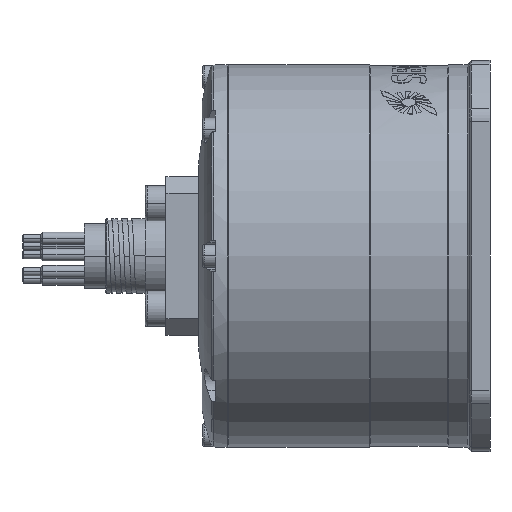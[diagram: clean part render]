
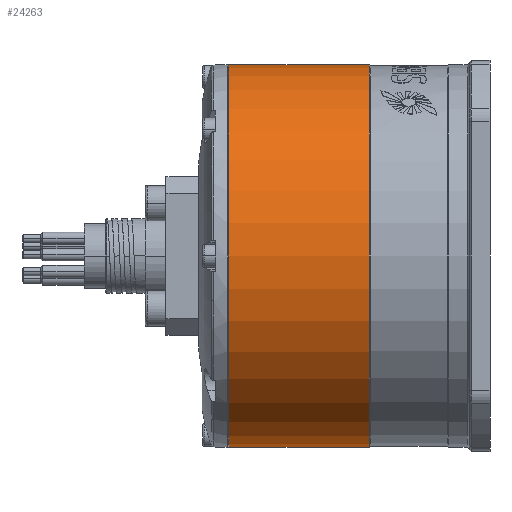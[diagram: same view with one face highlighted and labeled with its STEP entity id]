
A CAD part, left-side view. The second image highlights one B-rep face of the part: STEP entity #24263.
In plain terms, the highlighted cylindrical face has radius 46 mm (diameter 92 mm), a partial arc.
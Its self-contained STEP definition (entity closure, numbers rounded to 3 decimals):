
#12 = VERTEX_POINT ( 'NONE', #20837 ) ;
#123 = VERTEX_POINT ( 'NONE', #18120 ) ;
#514 = EDGE_CURVE ( 'NONE', #12, #123, #813, .T. ) ;
#813 = CIRCLE ( 'NONE', #14171, 46. ) ;
#1675 = VECTOR ( 'NONE', #2480, 1000. ) ;
#2019 = DIRECTION ( 'NONE',  ( 0., 0., 1. ) ) ;
#2480 = DIRECTION ( 'NONE',  ( 0., 1., 0. ) ) ;
#3791 = ORIENTED_EDGE ( 'NONE', *, *, #514, .T. ) ;
#6945 = AXIS2_PLACEMENT_3D ( 'NONE', #11319, #34964, #16724 ) ;
#9506 = LINE ( 'NONE', #20087, #1675 ) ;
#11144 = DIRECTION ( 'NONE',  ( 0., -1., 0. ) ) ;
#11319 = CARTESIAN_POINT ( 'NONE',  ( 0., -34., 0. ) ) ;
#12532 = ORIENTED_EDGE ( 'NONE', *, *, #20294, .F. ) ;
#13115 = VERTEX_POINT ( 'NONE', #33917 ) ;
#14171 = AXIS2_PLACEMENT_3D ( 'NONE', #19758, #11144, #2019 ) ;
#14833 = CYLINDRICAL_SURFACE ( 'NONE', #33636, 46. ) ;
#15318 = DIRECTION ( 'NONE',  ( 0., 1., 0. ) ) ;
#16724 = DIRECTION ( 'NONE',  ( 0., 0., 1. ) ) ;
#17657 = ORIENTED_EDGE ( 'NONE', *, *, #25599, .T. ) ;
#18120 = CARTESIAN_POINT ( 'NONE',  ( 0., -0.2, -46. ) ) ;
#18192 = EDGE_LOOP ( 'NONE', ( #12532, #17657, #30080, #3791 ) ) ;
#19758 = CARTESIAN_POINT ( 'NONE',  ( 0., -0.2, 0. ) ) ;
#20087 = CARTESIAN_POINT ( 'NONE',  ( 0., 61.723, -46. ) ) ;
#20294 = EDGE_CURVE ( 'NONE', #13115, #123, #9506, .T. ) ;
#20837 = CARTESIAN_POINT ( 'NONE',  ( 0., -0.2, 46. ) ) ;
#21140 = DIRECTION ( 'NONE',  ( 0., 0., 1. ) ) ;
#22614 = CIRCLE ( 'NONE', #6945, 46. ) ;
#23958 = VECTOR ( 'NONE', #37669, 1000. ) ;
#24263 = ADVANCED_FACE ( 'NONE', ( #35162 ), #14833, .T. ) ;
#24372 = CARTESIAN_POINT ( 'NONE',  ( 0., 61.723, 0. ) ) ;
#25599 = EDGE_CURVE ( 'NONE', #13115, #27704, #22614, .T. ) ;
#27704 = VERTEX_POINT ( 'NONE', #35328 ) ;
#27737 = EDGE_CURVE ( 'NONE', #27704, #12, #37393, .T. ) ;
#30080 = ORIENTED_EDGE ( 'NONE', *, *, #27737, .T. ) ;
#31421 = CARTESIAN_POINT ( 'NONE',  ( 0., 61.723, 46. ) ) ;
#33636 = AXIS2_PLACEMENT_3D ( 'NONE', #24372, #15318, #21140 ) ;
#33917 = CARTESIAN_POINT ( 'NONE',  ( 0., -34., -46. ) ) ;
#34964 = DIRECTION ( 'NONE',  ( 0., 1., 0. ) ) ;
#35162 = FACE_OUTER_BOUND ( 'NONE', #18192, .T. ) ;
#35328 = CARTESIAN_POINT ( 'NONE',  ( 0., -34., 46. ) ) ;
#37393 = LINE ( 'NONE', #31421, #23958 ) ;
#37669 = DIRECTION ( 'NONE',  ( 0., 1., 0. ) ) ;
